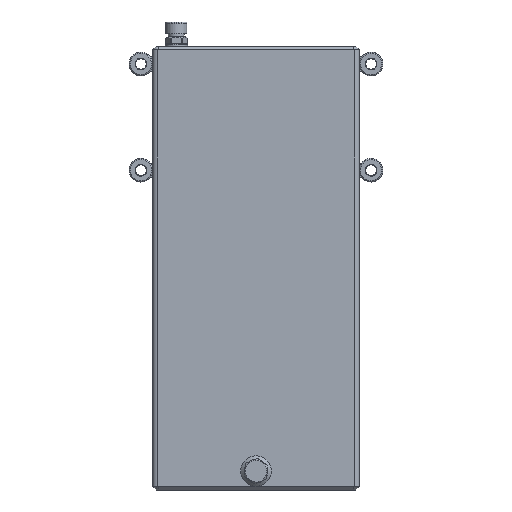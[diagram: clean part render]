
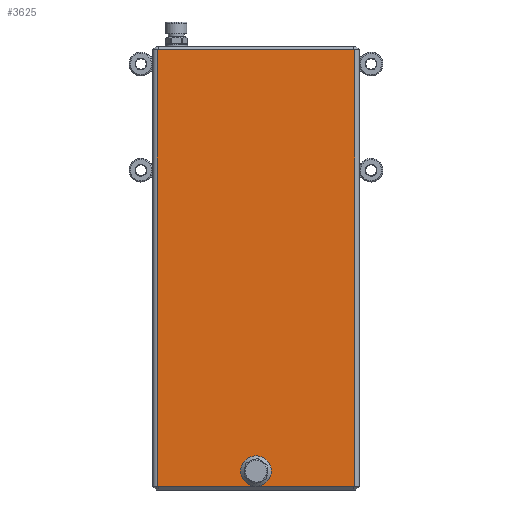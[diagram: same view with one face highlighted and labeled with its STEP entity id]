
A CAD part, front view. The second image highlights one B-rep face of the part: STEP entity #3625.
In plain terms, the highlighted planar face has unit normal (0, -1, 0).
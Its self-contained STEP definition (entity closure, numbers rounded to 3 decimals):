
#92=LINE('',#7694,#309);
#95=LINE('',#7702,#312);
#96=LINE('',#7706,#313);
#99=LINE('',#7716,#316);
#100=LINE('',#7721,#317);
#101=LINE('',#7722,#318);
#115=LINE('',#7786,#332);
#129=LINE('',#7812,#346);
#130=LINE('',#7814,#347);
#309=VECTOR('',#6540,1000.);
#312=VECTOR('',#6547,1000.);
#313=VECTOR('',#6552,1000.);
#316=VECTOR('',#6561,1000.);
#317=VECTOR('',#6568,1000.);
#318=VECTOR('',#6569,1000.);
#332=VECTOR('',#6653,1000.);
#346=VECTOR('',#6675,1000.);
#347=VECTOR('',#6678,1000.);
#1055=ORIENTED_EDGE('',*,*,#1733,.T.);
#1056=ORIENTED_EDGE('',*,*,#1731,.T.);
#1057=ORIENTED_EDGE('',*,*,#1732,.T.);
#1058=ORIENTED_EDGE('',*,*,#1730,.T.);
#1059=ORIENTED_EDGE('',*,*,#1725,.T.);
#1060=ORIENTED_EDGE('',*,*,#1776,.T.);
#1061=ORIENTED_EDGE('',*,*,#1777,.T.);
#1062=ORIENTED_EDGE('',*,*,#1761,.T.);
#1063=ORIENTED_EDGE('',*,*,#1723,.T.);
#1064=ORIENTED_EDGE('',*,*,#1719,.T.);
#1719=EDGE_CURVE('',#2147,#2115,#92,.T.);
#1723=EDGE_CURVE('',#2150,#2147,#95,.T.);
#1725=EDGE_CURVE('',#2151,#2152,#96,.T.);
#1730=EDGE_CURVE('',#2120,#2151,#99,.T.);
#1731=EDGE_CURVE('',#2155,#2155,#2443,.F.);
#1732=EDGE_CURVE('',#2155,#2120,#100,.T.);
#1733=EDGE_CURVE('',#2115,#2155,#101,.T.);
#1761=EDGE_CURVE('',#2170,#2150,#115,.T.);
#1776=EDGE_CURVE('',#2152,#2178,#129,.T.);
#1777=EDGE_CURVE('',#2178,#2170,#130,.T.);
#2115=VERTEX_POINT('',#7589);
#2120=VERTEX_POINT('',#7599);
#2147=VERTEX_POINT('',#7695);
#2150=VERTEX_POINT('',#7703);
#2151=VERTEX_POINT('',#7707);
#2152=VERTEX_POINT('',#7708);
#2155=VERTEX_POINT('',#7719);
#2170=VERTEX_POINT('',#7784);
#2178=VERTEX_POINT('',#7811);
#2443=CIRCLE('',#5751,13.);
#2793=EDGE_LOOP('',(#1055,#1056,#1057,#1058,#1059,#1060,#1061,#1062,#1063,
#1064));
#3191=FACE_BOUND('',#2793,.T.);
#3424=PLANE('',#5792);
#3625=ADVANCED_FACE('',(#3191),#3424,.T.);
#5751=AXIS2_PLACEMENT_3D('',#7718,#6564,#6565);
#5792=AXIS2_PLACEMENT_3D('',#7813,#6676,#6677);
#6540=DIRECTION('',(1.,0.,0.));
#6547=DIRECTION('',(0.,0.,-1.));
#6552=DIRECTION('',(0.,0.,1.));
#6561=DIRECTION('',(1.,0.,0.));
#6564=DIRECTION('',(0.,-1.,0.));
#6565=DIRECTION('',(1.,0.,0.));
#6568=DIRECTION('',(1.,0.,0.));
#6569=DIRECTION('',(1.,0.,0.));
#6653=DIRECTION('',(-1.,0.,0.));
#6675=DIRECTION('',(-1.,0.,0.));
#6676=DIRECTION('',(0.,-1.,0.));
#6677=DIRECTION('',(1.,0.,0.));
#6678=DIRECTION('',(-1.,0.,0.));
#7589=CARTESIAN_POINT('',(-83.,-87.5,3.));
#7599=CARTESIAN_POINT('',(83.,-87.5,3.));
#7694=CARTESIAN_POINT('',(-85.063,-87.5,3.));
#7695=CARTESIAN_POINT('',(-83.5,-87.5,3.));
#7702=CARTESIAN_POINT('',(-83.5,-87.5,373.));
#7703=CARTESIAN_POINT('',(-83.5,-87.5,373.));
#7706=CARTESIAN_POINT('',(83.5,-87.5,3.));
#7707=CARTESIAN_POINT('',(83.5,-87.5,3.));
#7708=CARTESIAN_POINT('',(83.5,-87.5,373.));
#7716=CARTESIAN_POINT('',(-85.063,-87.5,3.));
#7718=CARTESIAN_POINT('',(0.,-87.5,16.));
#7719=CARTESIAN_POINT('',(0.,-87.5,3.));
#7721=CARTESIAN_POINT('',(-85.063,-87.5,3.));
#7722=CARTESIAN_POINT('',(-85.063,-87.5,3.));
#7784=CARTESIAN_POINT('',(-83.,-87.5,373.));
#7786=CARTESIAN_POINT('',(-85.063,-87.5,373.));
#7811=CARTESIAN_POINT('',(83.,-87.5,373.));
#7812=CARTESIAN_POINT('',(-85.063,-87.5,373.));
#7813=CARTESIAN_POINT('',(-84.5,-87.5,188.));
#7814=CARTESIAN_POINT('',(-85.063,-87.5,373.));
